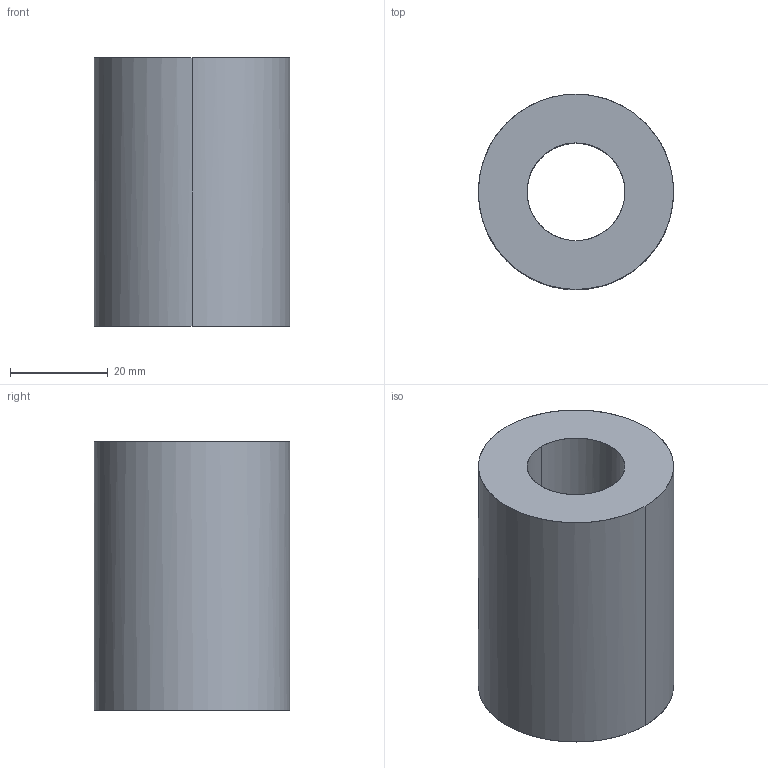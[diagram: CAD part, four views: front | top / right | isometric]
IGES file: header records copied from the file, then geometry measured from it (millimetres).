
Global section: file name: E:\UnigraphicsGraphicData\MISUMI_PRESS-PARTS\IGES\3d_swv40-55_00761_r00.igs; native system: NX V5.0; preprocessor: UGS NX IGES V5.0; author: MISUMI; date: 20110105.163300; units: millimetre
Bounding box: 40 x 40 x 55 mm (x, y, z)
Surface area: 12250.6 mm2 (no closed solid volume)
Topology: 0 solids, 0 shells, 6 faces, 64 edges, 64 vertices
Faces by surface type: bspline 6
